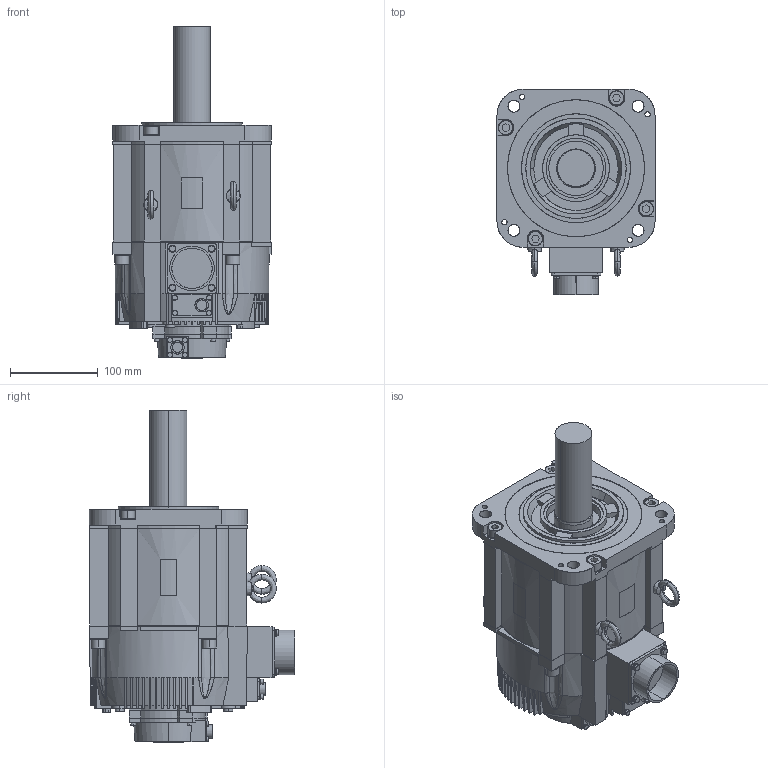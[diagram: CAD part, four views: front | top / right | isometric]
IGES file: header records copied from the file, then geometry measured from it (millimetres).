
Start section: SolidWorks IGES file using analytic representation for surfaces
Global section: file name: D:\YASKAWA\sgm7g_55__a2c.IGS; native system: SolidWorks 2006 by SolidWorks Corporation; preprocessor: SolidWorks 2006 by SolidWorks Corporation; author: yamanouchi; date: 140507.140959; units: millimetre
Bounding box: 180 x 233.75 x 378.1 mm (x, y, z)
Surface area: 316908.3 mm2 (no closed solid volume)
Topology: 0 solids, 0 shells, 1060 faces, 13677 edges, 13670 vertices
Faces by surface type: bspline 655, revolution 405
